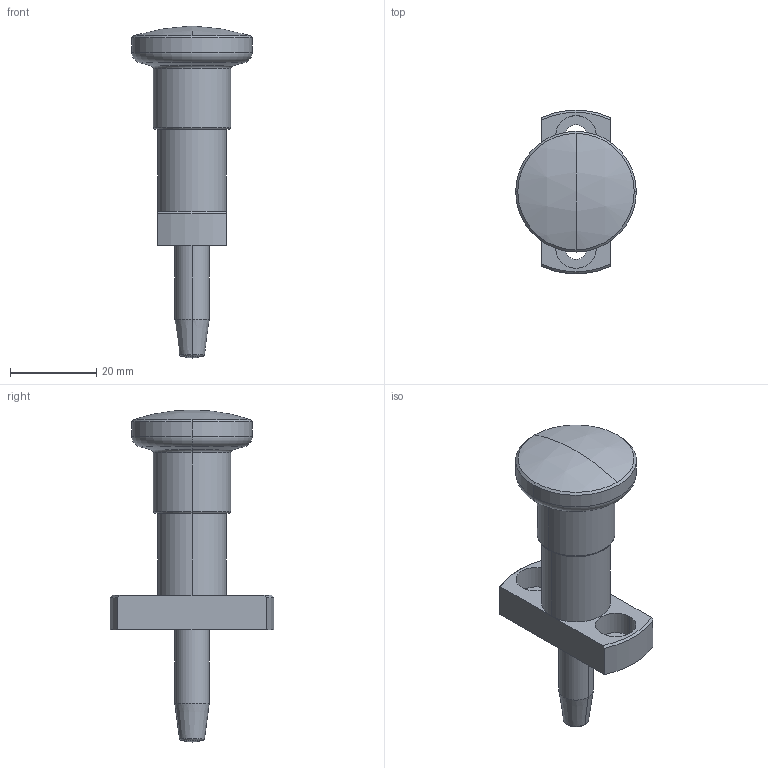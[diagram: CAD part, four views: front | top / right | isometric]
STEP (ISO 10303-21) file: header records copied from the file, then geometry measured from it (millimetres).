
FILE_DESCRIPTION (( 'STEP AP214' ), '1' );
FILE_NAME ('817.5-8-26-B.step', '2022-08-31T12:50:37', ( '' ), ( '' ), 'SwSTEP 2.0', 'SolidWorks 2022', '' );
FILE_SCHEMA (( 'AUTOMOTIVE_DESIGN' ));
Length unit declared in the file: millimetre
Products named in the file (3): WB817.5_Bolzen^817.5_4.1-08-26; WB817.5_Führung^817.5_1.1-08-10-B; 817.5-8-26-B
Assembly tree (2 placements, depth 2):
  817.5-8-26-B
    WB817.5_Führung^817.5_1.1-08-10-B
    WB817.5_Bolzen^817.5_4.1-08-26
Bounding box: 28 x 37.86 x 77 mm (x, y, z)
Volume: 15723.7 mm3; surface area: 9170.9 mm2
Topology: 2 solids, 2 shells, 78 faces, 178 edges, 112 vertices
Faces by surface type: cylinder 36, plane 20, cone 10, torus 8, sphere 4
Entity records: 2404 total; most frequent: CARTESIAN_POINT 477, DIRECTION 420, ORIENTED_EDGE 356, AXIS2_PLACEMENT_3D 179, EDGE_CURVE 178, VERTEX_POINT 112, CIRCLE 96, EDGE_LOOP 92
